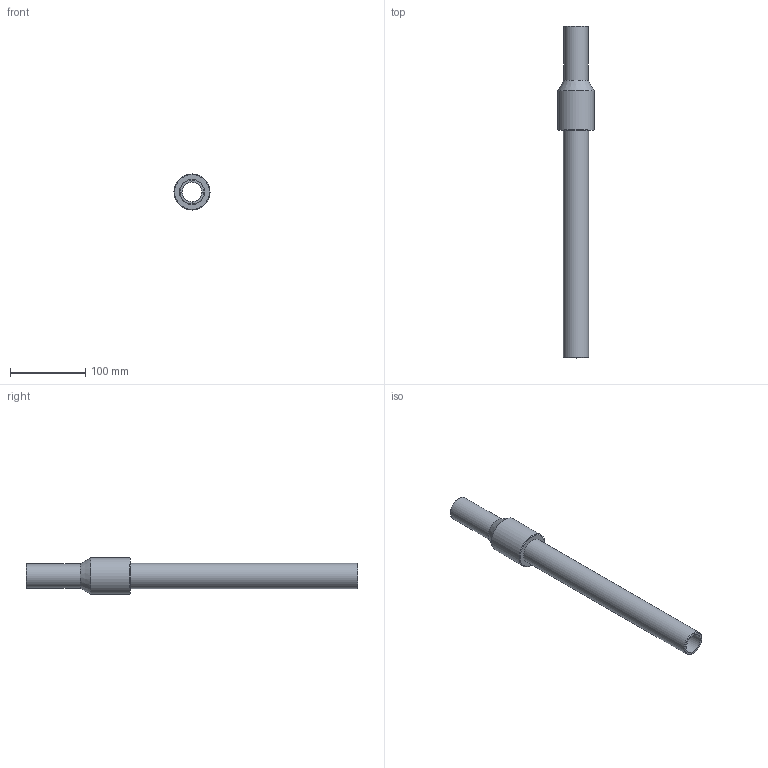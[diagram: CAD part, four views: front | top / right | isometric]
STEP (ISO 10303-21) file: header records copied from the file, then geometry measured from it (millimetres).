
FILE_DESCRIPTION(/* description */ ('Unknown'),/* implementation_level */ '2;1');
FILE_NAME(/* name */ 'RTSNP032C',/* time_stamp */ '2022-04-26T17:01:20+02:00',/* author */ ('Unknown'),/* organization */ ('Unknown'),/* preprocessor_version */ 'ST-DEVELOPER v18.1',/* originating_system */ 'Solid Edge',/* authorisation */ 'Unknown');
FILE_SCHEMA (('AUTOMOTIVE_DESIGN {1 0 10303 214 3 1 1}'));
Length unit declared in the file: millimetre
Products named in the file (3): RTSNP032C; Parte PE_; Partea ACCIAIO
Assembly tree (2 placements, depth 2):
  RTSNP032C
    Parte PE_
    Partea ACCIAIO
Bounding box: 48 x 442 x 48 mm (x, y, z)
Volume: 193079.6 mm3; surface area: 97738.5 mm2
Topology: 2 solids, 2 shells, 15 faces, 27 edges, 17 vertices
Faces by surface type: cylinder 6, plane 5, cone 2, torus 2
Full cylindrical faces by diameter (mm): 26 x1, 26.64 x1, 32 x1, 33.4 x2, 48 x1
Entity records: 388 total; most frequent: DIRECTION 66, CARTESIAN_POINT 48, AXIS2_PLACEMENT_3D 33, ORIENTED_EDGE 30, EDGE_LOOP 30, FACE_BOUND 30, EDGE_CURVE 15, VERTEX_POINT 15
